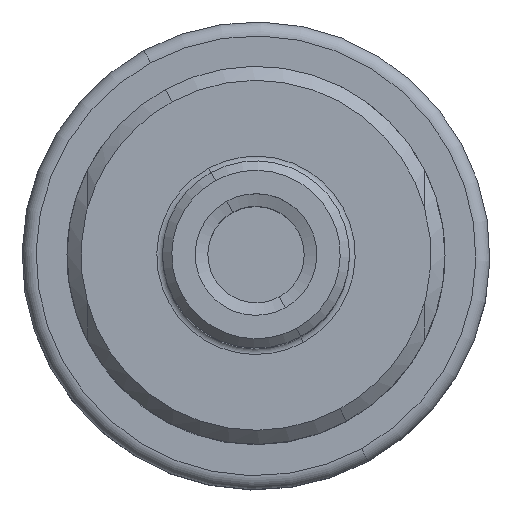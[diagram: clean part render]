
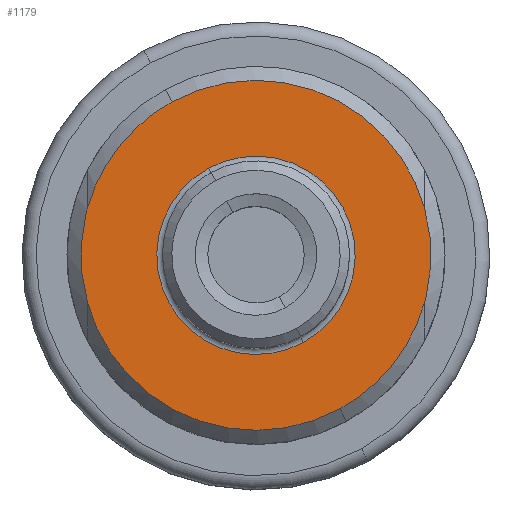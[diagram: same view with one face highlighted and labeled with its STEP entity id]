
A CAD part, top view. The second image highlights one B-rep face of the part: STEP entity #1179.
In plain terms, the highlighted planar face has unit normal (0, 0, 1).
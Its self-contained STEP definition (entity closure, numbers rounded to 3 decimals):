
#1059=AXIS2_PLACEMENT_3D('Circle Axis2P3D',#1057,#1058,$) ;
#1134=AXIS2_PLACEMENT_3D('Circle Axis2P3D',#1132,#1133,$) ;
#1149=AXIS2_PLACEMENT_3D('Plane Axis2P3D',#1146,#1147,#1148) ;
#1163=AXIS2_PLACEMENT_3D('Circle Axis2P3D',#1161,#1162,$) ;
#1172=AXIS2_PLACEMENT_3D('Circle Axis2P3D',#1170,#1171,$) ;
#979=CARTESIAN_POINT('Vertex',(8.965,-16.411,-50.)) ;
#983=CARTESIAN_POINT('Control Point',(8.965,-16.411,-50.)) ;
#984=CARTESIAN_POINT('Control Point',(6.168,-17.939,-50.)) ;
#985=CARTESIAN_POINT('Control Point',(3.046,-18.871,-50.)) ;
#986=CARTESIAN_POINT('Control Point',(-0.231,-19.114,-50.)) ;
#987=CARTESIAN_POINT('Control Point',(-7.031,-18.14,-50.)) ;
#988=CARTESIAN_POINT('Control Point',(-12.791,-14.335,-50.)) ;
#989=CARTESIAN_POINT('Control Point',(-15.283,-11.642,-50.)) ;
#990=CARTESIAN_POINT('Control Point',(-17.043,-8.468,-50.)) ;
#991=CARTESIAN_POINT('Control Point',(-18.,-5.069,-50.)) ;
#992=CARTESIAN_POINT('Vertex',(-18.,-5.069,-50.)) ;
#1018=CARTESIAN_POINT('Vertex',(18.,-5.069,-50.)) ;
#1022=CARTESIAN_POINT('Control Point',(18.,-5.069,-50.)) ;
#1023=CARTESIAN_POINT('Control Point',(16.991,-8.652,-50.)) ;
#1024=CARTESIAN_POINT('Control Point',(15.028,-11.971,-50.)) ;
#1025=CARTESIAN_POINT('Control Point',(12.233,-14.626,-50.)) ;
#1026=CARTESIAN_POINT('Control Point',(8.965,-16.411,-50.)) ;
#1045=CARTESIAN_POINT('Vertex',(18.,5.069,-50.)) ;
#1049=CARTESIAN_POINT('Control Point',(18.,5.069,-50.)) ;
#1050=CARTESIAN_POINT('Control Point',(18.648,2.769,-50.)) ;
#1051=CARTESIAN_POINT('Control Point',(18.903,0.358,-50.)) ;
#1052=CARTESIAN_POINT('Control Point',(18.739,-2.06,-50.)) ;
#1053=CARTESIAN_POINT('Control Point',(18.179,-4.382,-50.)) ;
#1054=CARTESIAN_POINT('Vertex',(18.179,-4.382,-50.)) ;
#1057=CARTESIAN_POINT('Axis2P3D Location',(0.,0.,-50.)) ;
#1074=CARTESIAN_POINT('Vertex',(-8.965,16.411,-50.)) ;
#1078=CARTESIAN_POINT('Control Point',(-8.965,16.411,-50.)) ;
#1079=CARTESIAN_POINT('Control Point',(-6.168,17.939,-50.)) ;
#1080=CARTESIAN_POINT('Control Point',(-3.046,18.871,-50.)) ;
#1081=CARTESIAN_POINT('Control Point',(0.231,19.114,-50.)) ;
#1082=CARTESIAN_POINT('Control Point',(7.031,18.14,-50.)) ;
#1083=CARTESIAN_POINT('Control Point',(12.791,14.335,-50.)) ;
#1084=CARTESIAN_POINT('Control Point',(15.283,11.642,-50.)) ;
#1085=CARTESIAN_POINT('Control Point',(17.043,8.468,-50.)) ;
#1086=CARTESIAN_POINT('Control Point',(18.,5.069,-50.)) ;
#1101=CARTESIAN_POINT('Control Point',(-18.,5.069,-50.)) ;
#1102=CARTESIAN_POINT('Control Point',(-16.991,8.652,-50.)) ;
#1103=CARTESIAN_POINT('Control Point',(-15.028,11.971,-50.)) ;
#1104=CARTESIAN_POINT('Control Point',(-12.233,14.626,-50.)) ;
#1105=CARTESIAN_POINT('Control Point',(-8.965,16.411,-50.)) ;
#1106=CARTESIAN_POINT('Vertex',(-18.,5.069,-50.)) ;
#1124=CARTESIAN_POINT('Control Point',(-18.,-5.069,-50.)) ;
#1125=CARTESIAN_POINT('Control Point',(-18.648,-2.769,-50.)) ;
#1126=CARTESIAN_POINT('Control Point',(-18.903,-0.358,-50.)) ;
#1127=CARTESIAN_POINT('Control Point',(-18.739,2.06,-50.)) ;
#1128=CARTESIAN_POINT('Control Point',(-18.179,4.382,-50.)) ;
#1129=CARTESIAN_POINT('Vertex',(-18.179,4.382,-50.)) ;
#1132=CARTESIAN_POINT('Axis2P3D Location',(0.,0.,-50.)) ;
#1146=CARTESIAN_POINT('Axis2P3D Location',(0.,20.2,-50.)) ;
#1161=CARTESIAN_POINT('Axis2P3D Location',(0.,0.,-50.)) ;
#1165=CARTESIAN_POINT('Vertex',(-5.082,9.302,-50.)) ;
#1167=CARTESIAN_POINT('Vertex',(5.082,-9.302,-50.)) ;
#1170=CARTESIAN_POINT('Axis2P3D Location',(0.,0.,-50.)) ;
#1058=DIRECTION('Axis2P3D Direction',(0.,0.,1.)) ;
#1133=DIRECTION('Axis2P3D Direction',(0.,0.,1.)) ;
#1147=DIRECTION('Axis2P3D Direction',(0.,0.,1.)) ;
#1148=DIRECTION('Axis2P3D XDirection',(1.,0.,0.)) ;
#1162=DIRECTION('Axis2P3D Direction',(0.,0.,1.)) ;
#1171=DIRECTION('Axis2P3D Direction',(0.,0.,1.)) ;
#1152=ORIENTED_EDGE('',*,*,#994,.F.) ;
#1153=ORIENTED_EDGE('',*,*,#1027,.F.) ;
#1154=ORIENTED_EDGE('',*,*,#1061,.F.) ;
#1155=ORIENTED_EDGE('',*,*,#1056,.F.) ;
#1156=ORIENTED_EDGE('',*,*,#1087,.F.) ;
#1157=ORIENTED_EDGE('',*,*,#1108,.F.) ;
#1158=ORIENTED_EDGE('',*,*,#1136,.F.) ;
#1159=ORIENTED_EDGE('',*,*,#1131,.F.) ;
#1176=ORIENTED_EDGE('',*,*,#1169,.F.) ;
#1177=ORIENTED_EDGE('',*,*,#1174,.F.) ;
#1178=FACE_BOUND('',#1175,.T.) ;
#1179=ADVANCED_FACE('NOCUT',(#1160,#1178),#1150,.T.) ;
#982=B_SPLINE_CURVE_WITH_KNOTS('',5,(#983,#984,#985,#986,#987,#988,#989,#990,#991),.UNSPECIFIED.,.F.,.U.,(6,3,6),(0.,86.693,182.765),.UNSPECIFIED.) ;
#1021=B_SPLINE_CURVE_WITH_KNOTS('',4,(#1022,#1023,#1024,#1025,#1026),.UNSPECIFIED.,.F.,.U.,(5,5),(51.99,133.009),.UNSPECIFIED.) ;
#1048=B_SPLINE_CURVE_WITH_KNOTS('',4,(#1049,#1050,#1051,#1052,#1053),.UNSPECIFIED.,.F.,.U.,(5,5),(182.765,234.755),.UNSPECIFIED.) ;
#1077=B_SPLINE_CURVE_WITH_KNOTS('',5,(#1078,#1079,#1080,#1081,#1082,#1083,#1084,#1085,#1086),.UNSPECIFIED.,.F.,.U.,(6,3,6),(0.,86.693,182.765),.UNSPECIFIED.) ;
#1100=B_SPLINE_CURVE_WITH_KNOTS('',4,(#1101,#1102,#1103,#1104,#1105),.UNSPECIFIED.,.F.,.U.,(5,5),(51.99,133.009),.UNSPECIFIED.) ;
#1123=B_SPLINE_CURVE_WITH_KNOTS('',4,(#1124,#1125,#1126,#1127,#1128),.UNSPECIFIED.,.F.,.U.,(5,5),(182.765,234.755),.UNSPECIFIED.) ;
#1060=CIRCLE('generated circle',#1059,18.7) ;
#1135=CIRCLE('generated circle',#1134,18.7) ;
#1164=CIRCLE('generated circle',#1163,10.6) ;
#1173=CIRCLE('generated circle',#1172,10.6) ;
#994=EDGE_CURVE('',#980,#993,#982,.T.) ;
#1027=EDGE_CURVE('',#1019,#980,#1021,.T.) ;
#1056=EDGE_CURVE('',#1046,#1055,#1048,.T.) ;
#1061=EDGE_CURVE('',#1055,#1019,#1060,.F.) ;
#1087=EDGE_CURVE('',#1075,#1046,#1077,.T.) ;
#1108=EDGE_CURVE('',#1107,#1075,#1100,.T.) ;
#1131=EDGE_CURVE('',#993,#1130,#1123,.T.) ;
#1136=EDGE_CURVE('',#1130,#1107,#1135,.F.) ;
#1169=EDGE_CURVE('',#1166,#1168,#1164,.T.) ;
#1174=EDGE_CURVE('',#1168,#1166,#1173,.T.) ;
#1151=EDGE_LOOP('',(#1152,#1153,#1154,#1155,#1156,#1157,#1158,#1159)) ;
#1175=EDGE_LOOP('',(#1176,#1177)) ;
#1160=FACE_OUTER_BOUND('',#1151,.T.) ;
#1150=PLANE('',#1149) ;
#980=VERTEX_POINT('',#979) ;
#993=VERTEX_POINT('',#992) ;
#1019=VERTEX_POINT('',#1018) ;
#1046=VERTEX_POINT('',#1045) ;
#1055=VERTEX_POINT('',#1054) ;
#1075=VERTEX_POINT('',#1074) ;
#1107=VERTEX_POINT('',#1106) ;
#1130=VERTEX_POINT('',#1129) ;
#1166=VERTEX_POINT('',#1165) ;
#1168=VERTEX_POINT('',#1167) ;
